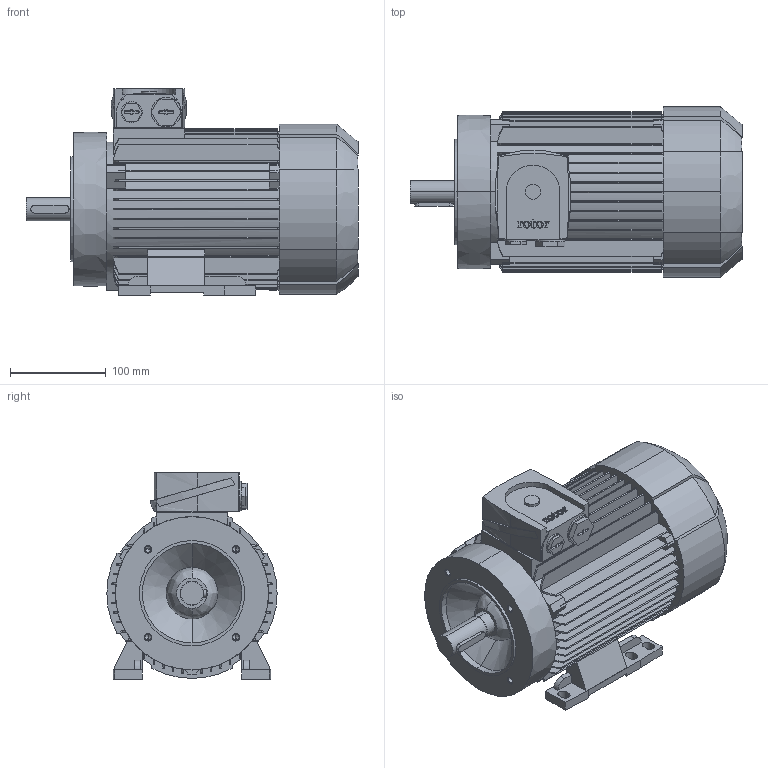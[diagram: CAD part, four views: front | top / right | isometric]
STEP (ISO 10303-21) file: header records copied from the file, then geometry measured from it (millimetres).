
FILE_DESCRIPTION (( 'STEP AP214' ), '1' );
FILE_NAME ('6RN90S02E30 IM2101 FT130.STEP', '2014-09-22T09:59:51', ( 'rbc_ict' ), ( 'REGAL' ), 'SwSTEP 2.0', 'SolidWorks 2012', '' );
FILE_SCHEMA (( 'AUTOMOTIVE_DESIGN' ));
Length unit declared in the file: millimetre
Products named in the file (1): 6RN90S02E30 IM2101 FT130
Bounding box: 347 x 178 x 216 mm (x, y, z)
Volume: 5996057.9 mm3; surface area: 480664.2 mm2
Topology: 1 solids, 1 shells, 709 faces, 2029 edges, 1339 vertices
Faces by surface type: plane 406, cylinder 145, bspline 135, cone 23
Entity records: 26632 total; most frequent: CARTESIAN_POINT 8677, ORIENTED_EDGE 4042, DIRECTION 3397, EDGE_CURVE 2021, VERTEX_POINT 1339, LINE 1163, VECTOR 1163, AXIS2_PLACEMENT_3D 1117
